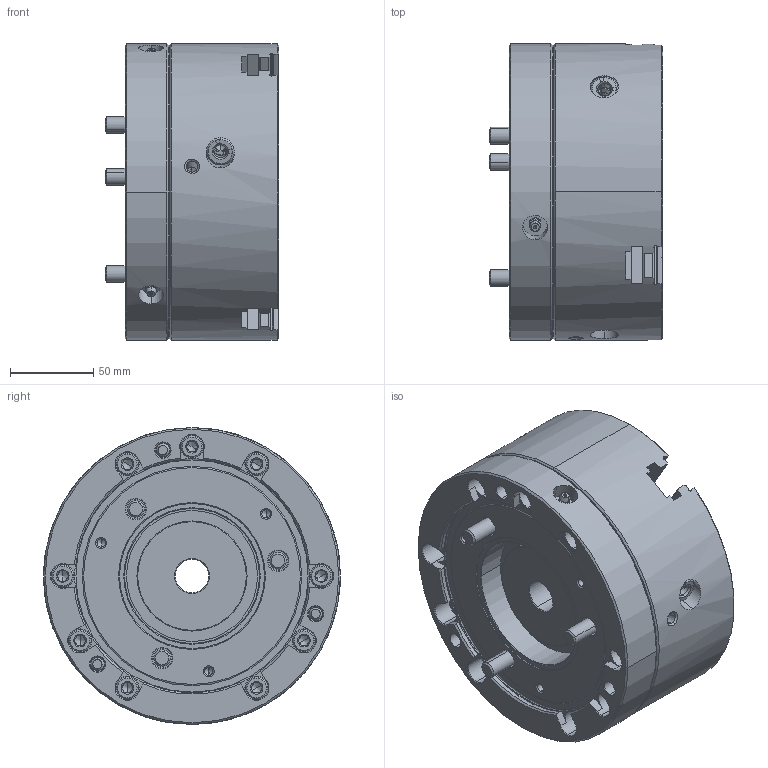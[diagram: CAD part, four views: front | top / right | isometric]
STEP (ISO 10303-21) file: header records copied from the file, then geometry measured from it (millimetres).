
FILE_DESCRIPTION (( 'STEP AP214' ), '1' );
FILE_NAME ('QJR07-00_UC.STEP', '2025-04-16T05:51:36', ( '' ), ( '' ), 'SwSTEP 2.0', 'SolidWorks 2022', '' );
FILE_SCHEMA (( 'AUTOMOTIVE_DESIGN' ));
Length unit declared in the file: millimetre
Products named in the file (3): QJR07-00_UC; Copy of 61P473088^QJR07-00_61P268931; Part9^QJR07-00_61P268931
Assembly tree (2 placements, depth 2):
  QJR07-00_UC
    Copy of 61P473088^QJR07-00_61P268931
    Part9^QJR07-00_61P268931
Bounding box: 104 x 178 x 178 mm (x, y, z)
Volume: 1864419.6 mm3; surface area: 204746.7 mm2
Topology: 2 solids, 27 shells, 1198 faces, 2982 edges, 1836 vertices
Faces by surface type: cone 437, plane 423, cylinder 290, torus 42, sphere 6
Entity records: 38319 total; most frequent: CARTESIAN_POINT 10051, DIRECTION 5835, ORIENTED_EDGE 5812, EDGE_CURVE 2906, AXIS2_PLACEMENT_3D 2346, VERTEX_POINT 1836, EDGE_LOOP 1314, ADVANCED_FACE 1198
